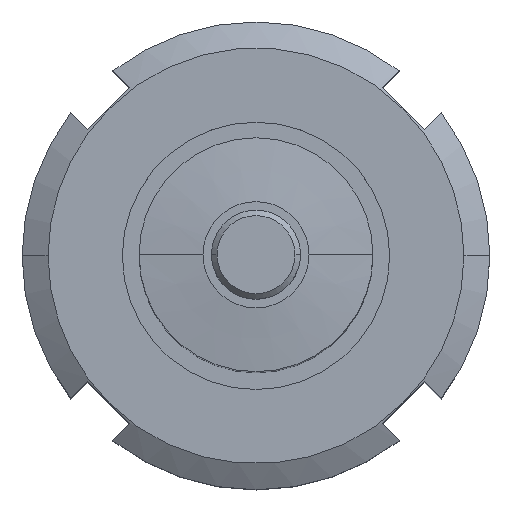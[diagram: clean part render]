
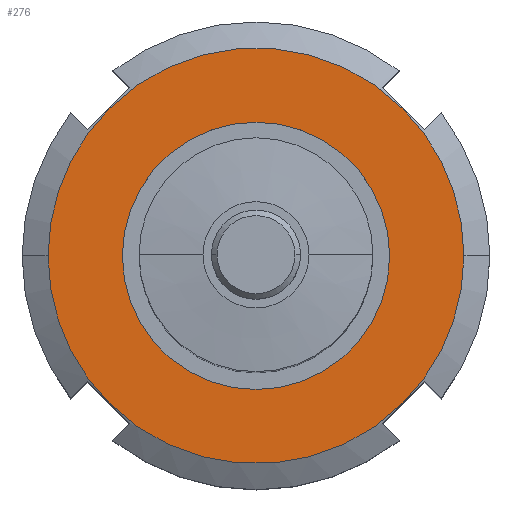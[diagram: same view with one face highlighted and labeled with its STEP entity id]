
A CAD part, top view. The second image highlights one B-rep face of the part: STEP entity #276.
In plain terms, the highlighted planar face has unit normal (0, 0, 1).
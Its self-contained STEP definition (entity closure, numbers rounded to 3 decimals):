
#276=ADVANCED_FACE('',(#618,#619),#620,.T.);
#618=FACE_BOUND('',#1022,.T.);
#619=FACE_OUTER_BOUND('',#1023,.T.);
#620=PLANE('',#1024);
#1022=EDGE_LOOP('',(#1753,#1754));
#1023=EDGE_LOOP('',(#1755,#1756,#1757,#1758,#1759,#1760));
#1024=AXIS2_PLACEMENT_3D('',#1761,#1762,#1763);
#1753=ORIENTED_EDGE('',*,*,#2619,.T.);
#1754=ORIENTED_EDGE('',*,*,#2466,.T.);
#1755=ORIENTED_EDGE('',*,*,#2566,.F.);
#1756=ORIENTED_EDGE('',*,*,#2625,.F.);
#1757=ORIENTED_EDGE('',*,*,#2458,.F.);
#1758=ORIENTED_EDGE('',*,*,#2602,.F.);
#1759=ORIENTED_EDGE('',*,*,#2481,.F.);
#1760=ORIENTED_EDGE('',*,*,#2586,.F.);
#1761=CARTESIAN_POINT('',(14.0,0.,-75.3));
#1762=DIRECTION('',(0.,0.0,1.0));
#1763=DIRECTION('',(-1.0,0.,0.));
#2458=EDGE_CURVE('',#2955,#2951,#2957,.T.);
#2466=EDGE_CURVE('',#2971,#2968,#2972,.T.);
#2481=EDGE_CURVE('',#2994,#2996,#2997,.T.);
#2566=EDGE_CURVE('',#3118,#3099,#3120,.T.);
#2586=EDGE_CURVE('',#3099,#2994,#3147,.T.);
#2602=EDGE_CURVE('',#2996,#2955,#3167,.T.);
#2619=EDGE_CURVE('',#2968,#2971,#3188,.T.);
#2625=EDGE_CURVE('',#2951,#3118,#3194,.T.);
#2951=VERTEX_POINT('',#3662);
#2955=VERTEX_POINT('',#3676);
#2957=CIRCLE('',#3689,28.0);
#2968=VERTEX_POINT('',#3702);
#2971=VERTEX_POINT('',#3706);
#2972=CIRCLE('',#3707,18.0);
#2994=VERTEX_POINT('',#3753);
#2996=VERTEX_POINT('',#3756);
#2997=CIRCLE('',#3757,28.0);
#3099=VERTEX_POINT('',#3915);
#3118=VERTEX_POINT('',#4007);
#3120=CIRCLE('',#4020,28.0);
#3147=CIRCLE('',#4111,28.0);
#3167=CIRCLE('',#4174,28.0);
#3188=CIRCLE('',#4238,18.0);
#3194=CIRCLE('',#4244,28.0);
#3662=CARTESIAN_POINT('',(-28.0,0.,-75.3));
#3676=CARTESIAN_POINT('',(-19.799,-19.799,-75.3));
#3689=AXIS2_PLACEMENT_3D('',#4776,#4777,#4778);
#3702=CARTESIAN_POINT('',(18.0,0.0,-75.3));
#3706=CARTESIAN_POINT('',(-18.0,0.,-75.3));
#3707=AXIS2_PLACEMENT_3D('',#4788,#4789,#4790);
#3753=CARTESIAN_POINT('',(28.0,0.,-75.3));
#3756=CARTESIAN_POINT('',(19.799,-19.799,-75.3));
#3757=AXIS2_PLACEMENT_3D('',#4808,#4809,#4810);
#3915=CARTESIAN_POINT('',(19.799,19.799,-75.3));
#4007=CARTESIAN_POINT('',(-19.799,19.799,-75.3));
#4020=AXIS2_PLACEMENT_3D('',#4912,#4913,#4914);
#4111=AXIS2_PLACEMENT_3D('',#4928,#4929,#4930);
#4174=AXIS2_PLACEMENT_3D('',#4940,#4941,#4942);
#4238=AXIS2_PLACEMENT_3D('',#4955,#4956,#4957);
#4244=AXIS2_PLACEMENT_3D('',#4964,#4965,#4966);
#4776=CARTESIAN_POINT('',(0.0,0.0,-75.3));
#4777=DIRECTION('',(0.0,0.0,-1.0));
#4778=DIRECTION('',(1.0,0.0,0.0));
#4788=CARTESIAN_POINT('',(0.0,0.0,-75.3));
#4789=DIRECTION('',(0.,-0.0,-1.0));
#4790=DIRECTION('',(1.0,0.0,0.));
#4808=CARTESIAN_POINT('',(0.0,0.0,-75.3));
#4809=DIRECTION('',(0.0,0.0,-1.0));
#4810=DIRECTION('',(1.0,0.0,0.0));
#4912=CARTESIAN_POINT('',(0.0,0.0,-75.3));
#4913=DIRECTION('',(0.0,0.0,-1.0));
#4914=DIRECTION('',(1.0,0.0,0.0));
#4928=CARTESIAN_POINT('',(0.0,0.0,-75.3));
#4929=DIRECTION('',(0.0,0.0,-1.0));
#4930=DIRECTION('',(1.0,0.0,0.0));
#4940=CARTESIAN_POINT('',(0.0,0.0,-75.3));
#4941=DIRECTION('',(0.0,0.0,-1.0));
#4942=DIRECTION('',(1.0,0.0,0.0));
#4955=CARTESIAN_POINT('',(0.0,0.0,-75.3));
#4956=DIRECTION('',(0.,-0.0,-1.0));
#4957=DIRECTION('',(1.0,0.0,0.));
#4964=CARTESIAN_POINT('',(0.0,0.0,-75.3));
#4965=DIRECTION('',(0.0,0.0,-1.0));
#4966=DIRECTION('',(1.0,0.0,0.0));
